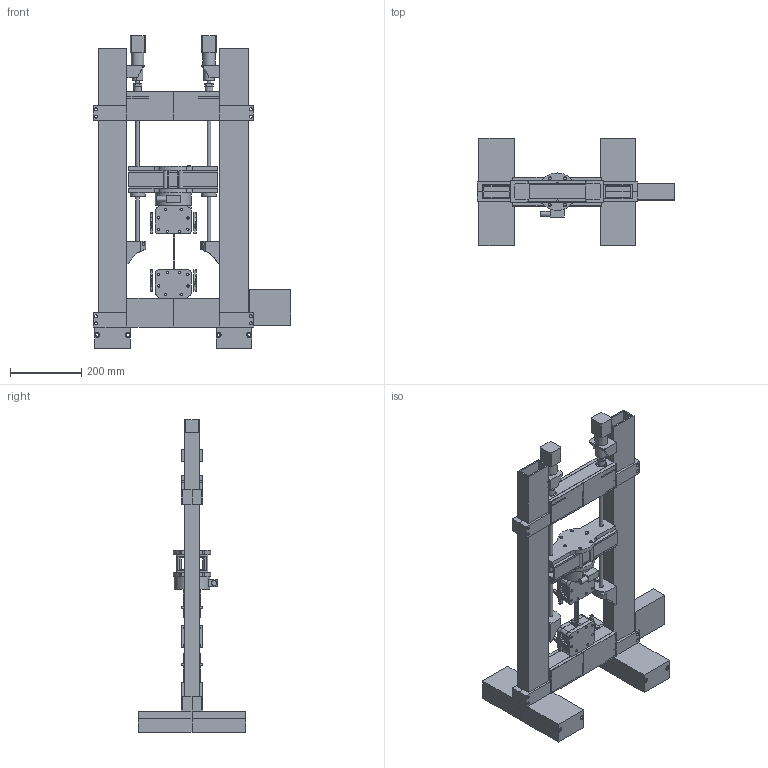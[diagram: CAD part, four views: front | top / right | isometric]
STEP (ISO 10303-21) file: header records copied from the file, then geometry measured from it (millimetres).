
FILE_DESCRIPTION(('FreeCAD Model'),'2;1');
FILE_NAME('Open CASCADE Shape Model','2026-10-24T23:35:31',('Author'),( ''),'Open CASCADE STEP processor 7.8','FreeCAD','Unknown');
FILE_SCHEMA(('AUTOMOTIVE_DESIGN { 1 0 10303 214 1 1 1 1 }'));
Length unit declared in the file: millimetre
Products named in the file (82): OpenPull_Costdown_030; Original_Part__Feature; Original_Part__Feature001; Original_Part__Feature002; Original_Part__Feature003; Original_Part__Feature004; Original_Part__Feature005; Original_Part__Feature006; Original_Part__Feature007; Original_Part__Feature008; Original_Part__Feature009; Original_Part__Feature010; Original_Part__Feature011; Original_Part__Feature012; Original_Part__Feature013; Original_Part__Feature014; Original_Part__Feature015; Original_Part__Feature016; Original_Part__Feature017; Original_Part__Feature018; Original_Part__Feature019; Original_Part__Feature020; Original_Part__Feature021; Original_Part__Feature022; Original_Part__Feature023; Original_Part__Feature024; Original_Part__Feature025; Original_Part__Feature026; Original_Part__Feature027; Original_Part__Feature028; Original_Part__Feature029; Original_Part__Feature030; Original_Part__Feature031; Original_Part__Feature032; Original_Part__Feature033; Original_Part__Feature034; Original_Part__Feature035; Original_Part__Feature036; Original_Part__Feature037; Original_Part__Feature038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
Assembly tree (81 placements, depth 2):
  OpenPull_Costdown_030
    Original_Part__Feature
    Original_Part__Feature001
    Original_Part__Feature002
    Original_Part__Feature003
    Original_Part__Feature004
    Original_Part__Feature005
    Original_Part__Feature006
    Original_Part__Feature007
    Original_Part__Feature008
    Original_Part__Feature009
    Original_Part__Feature010
    Original_Part__Feature011
    Original_Part__Feature012
    Original_Part__Feature013
    Original_Part__Feature014
    Original_Part__Feature015
    Original_Part__Feature016
    Original_Part__Feature017
    Original_Part__Feature018
    Original_Part__Feature019
    Original_Part__Feature020
    Original_Part__Feature021
    Original_Part__Feature022
    Original_Part__Feature023
    Original_Part__Feature024
    Original_Part__Feature025
    Original_Part__Feature026
    Original_Part__Feature027
    Original_Part__Feature028
    Original_Part__Feature029
    Original_Part__Feature030
    Original_Part__Feature031
    Original_Part__Feature032
    Original_Part__Feature033
    Original_Part__Feature034
    Original_Part__Feature035
    Original_Part__Feature036
    Original_Part__Feature037
    Original_Part__Feature038
    Original_Part__Feature039
    Original_Part__Feature040
    Original_Part__Feature041
    Original_Part__Feature042
    Original_Part__Feature043
    Original_Part__Feature045
    Original_Part__Feature046
    Original_Part__Feature047
    Original_Part__Feature048
    Original_Part__Feature049
    ColumnLeft
    ColumnRight
    BeamFixedBottom
    BearingReactionLeft
    BearingReactionRight
    BeamFixedTop
    BeamMoving
    FootLeftFront
    FootLeftBack
    WrapLeftBottomFront
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Bounding box: 555 x 300 x 877 mm (x, y, z)
Volume: 6319261.9 mm3; surface area: 2590351.2 mm2
Topology: 81 solids, 85 shells, 1605 faces, 4161 edges, 2779 vertices
Faces by surface type: plane 905, cylinder 530, bspline 136, cone 30, torus 4
Full cylindrical faces by diameter (mm): 3 x8, 3.5 x8, 4 x28, 5.3 x2, 6 x12, 6.5 x36, 8 x19, 8.6 x40, 9 x46, 9.3 x2, 10 x12, 12 x14, 14.95 x2, 15 x4, 16 x1, 17 x4, 20 x1, 22 x12, 22.3 x2, 22.5 x2, 25 x6, 26 x4, 30 x6, 35.2 x4, 35.8 x2, 36 x1, 42 x2, 55 x1, 100 x1
Entity records: 56940 total; most frequent: CARTESIAN_POINT 15149, ORIENTED_EDGE 8322, DIRECTION 8260, EDGE_CURVE 4161, AXIS2_PLACEMENT_3D 2854, VERTEX_POINT 2779, LINE 2552, VECTOR 2552
